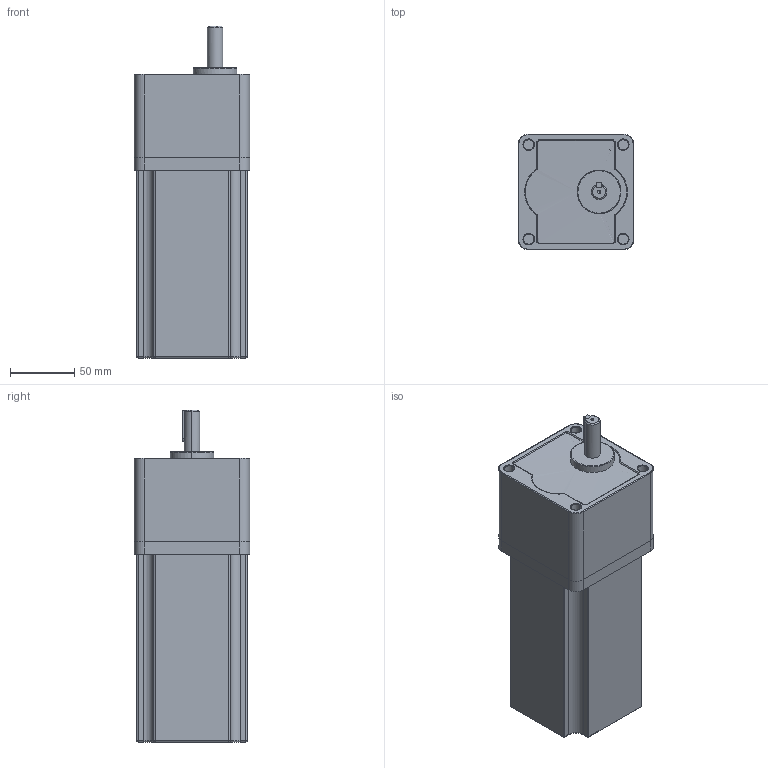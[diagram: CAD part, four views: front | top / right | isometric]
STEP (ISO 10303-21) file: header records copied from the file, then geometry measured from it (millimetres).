
FILE_DESCRIPTION (( 'STEP AP203' ), '1' );
FILE_NAME ('TM3404GU60A+5GU（L12）.STEP', '2026-07-20T03:11:02', ( 'user' ), ( '微软中国' ), 'SwSTEP 2.0', 'SolidWorks 2014', '' );
FILE_SCHEMA (( 'CONFIG_CONTROL_DESIGN' ));
Length unit declared in the file: millimetre
Products named in the file (1): TM3404GU60A+5GU（L12）
Bounding box: 90 x 90 x 258.5 mm (x, y, z)
Surface area: 136326.2 mm2 (no closed solid volume)
Topology: 0 solids, 5 shells, 141 faces, 344 edges, 202 vertices
Faces by surface type: cylinder 70, plane 36, bspline 18, sphere 8, cone 5, torus 4
Entity records: 5755 total; most frequent: CARTESIAN_POINT 2592, DIRECTION 636, ORIENTED_EDGE 635, EDGE_CURVE 334, AXIS2_PLACEMENT_3D 245, VERTEX_POINT 202, EDGE_LOOP 149, LINE 146
